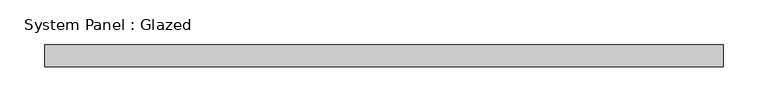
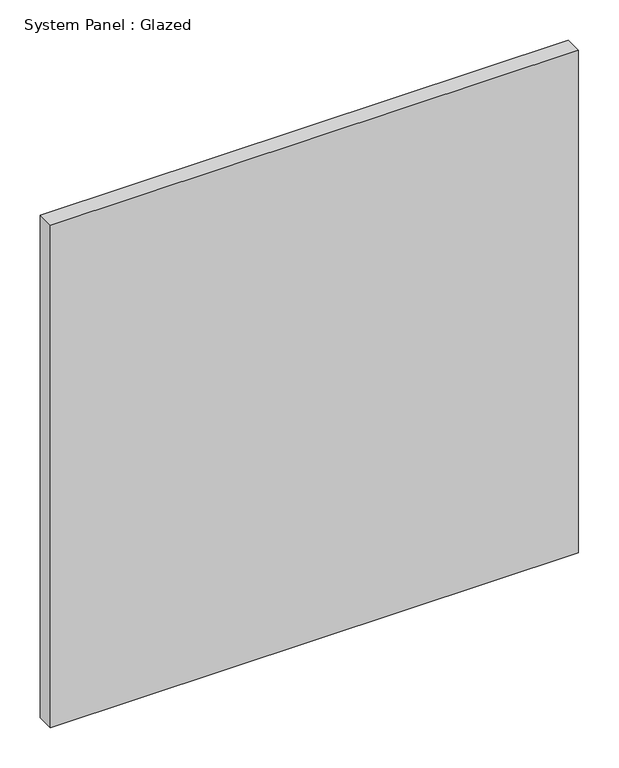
"""IFC4 building model written with IfcOpenShell, lengths in millimetres: plate geometry, System Panel : Glazed."""

from ifc_helpers import new_model, si_unit, origin, origin_with_axes, place, context, project, spatial, polyline, outline, extrude, source, transform, mapped, element, save


def system_panel_glazed_2d69d382(model_context):
    return source(origin(), model_context, "Body", "SweptSolid", [
        extrude(outline(polyline([(380.0892471, 24.5), (-380.0892471, 24.5), (-380.0892471, 49.5), (380.0892471, 49.5), (380.0892471, 24.5)])), origin_with_axes(), (0.0, 0.0, 1.0), 765.0),
    ])


if __name__ == "__main__":
    model = new_model("IFC4")
    model_context = context("Model", 3, world=origin())
    ifc_project = project(units=[si_unit("LENGTHUNIT", "METRE", prefix="MILLI")], contexts=[model_context])
    site = spatial("IfcSite", under=ifc_project)
    building = spatial("IfcBuilding", under=site)
    placement = place(None, origin())
    system_panel_glazed_shape = system_panel_glazed_2d69d382(model_context)
    element("IfcPlate", 1, ObjectType="System Panel : Glazed", at=placement, inside=building, context=model_context, shape_type="MappedRepresentation", body=[
        mapped(system_panel_glazed_shape, transform((0.0, 0.0, 0.0), x_axis=(1.0, 0.0, 0.0), y_axis=(0.0, 1.0, 0.0), z_axis=(0.0, 0.0, 1.0))),
    ])
    save(model, "model.ifc")
